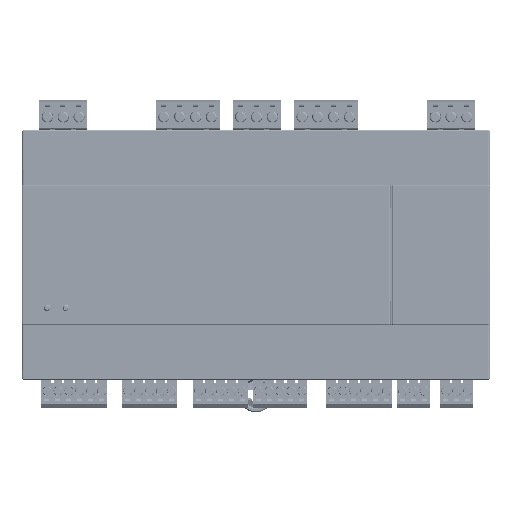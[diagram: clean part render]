
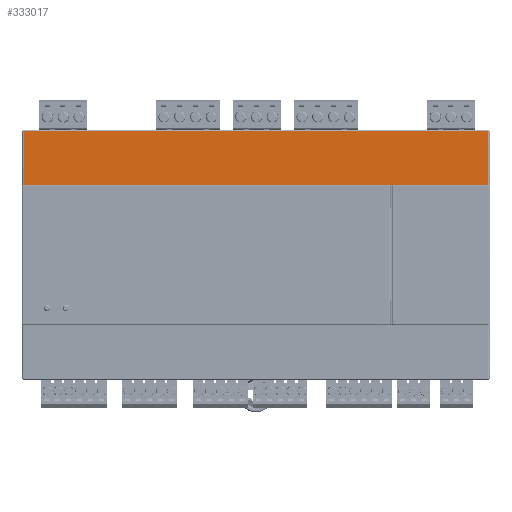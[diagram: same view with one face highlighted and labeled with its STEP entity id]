
A CAD part, top view. The second image highlights one B-rep face of the part: STEP entity #333017.
In plain terms, the highlighted planar face has unit normal (0, 0, 1).
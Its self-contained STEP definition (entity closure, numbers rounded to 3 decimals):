
#190 = EDGE_CURVE ( 'NONE', #42191, #364886, #113688, .T. ) ;
#516 = CARTESIAN_POINT ( 'NONE',  ( -2349.74, -145.792, 47.44 ) ) ;
#711 = CARTESIAN_POINT ( 'NONE',  ( -2249.964, -162.992, 47.44 ) ) ;
#1934 = CARTESIAN_POINT ( 'NONE',  ( -2323.764, -162.992, 47.44 ) ) ;
#2162 = DIRECTION ( 'NONE',  ( 1., 0., 0. ) ) ;
#6355 = VERTEX_POINT ( 'NONE', #301102 ) ;
#8098 = CARTESIAN_POINT ( 'NONE',  ( -2367.933, -162.992, 47.44 ) ) ;
#13024 = EDGE_CURVE ( 'NONE', #285383, #296775, #206354, .T. ) ;
#18241 = B_SPLINE_CURVE_WITH_KNOTS ( 'NONE', 1,
 ( #253226, #348977, #25751 ),
 .UNSPECIFIED., .F., .F.,
 ( 2, 1, 2 ),
 ( 9.713, 17.342, 45.723 ),
 .UNSPECIFIED. ) ;
#25751 = CARTESIAN_POINT ( 'NONE',  ( -2249.964, -145.792, 47.44 ) ) ;
#33147 = CARTESIAN_POINT ( 'NONE',  ( -2249.964, -145.792, 47.44 ) ) ;
#39297 = EDGE_CURVE ( 'NONE', #42191, #296775, #365682, .T. ) ;
#42191 = VERTEX_POINT ( 'NONE', #78172 ) ;
#49495 = ORIENTED_EDGE ( 'NONE', *, *, #210940, .F. ) ;
#55570 = CARTESIAN_POINT ( 'NONE',  ( -2398.764, -156.992, 47.44 ) ) ;
#60448 = AXIS2_PLACEMENT_3D ( 'NONE', #337178, #145912, #2162 ) ;
#68612 = EDGE_CURVE ( 'NONE', #285383, #6355, #210462, .T. ) ;
#72286 = ORIENTED_EDGE ( 'NONE', *, *, #68612, .F. ) ;
#76101 = CARTESIAN_POINT ( 'NONE',  ( -2284.335, -162.992, 47.44 ) ) ;
#78172 = CARTESIAN_POINT ( 'NONE',  ( -2274.335, -162.992, 47.44 ) ) ;
#78354 = VERTEX_POINT ( 'NONE', #140653 ) ;
#81784 = B_SPLINE_CURVE_WITH_KNOTS ( 'NONE', 1,
 ( #319404, #139826 ),
 .UNSPECIFIED., .F., .F.,
 ( 2, 2 ),
 ( -18.64, 0. ),
 .UNSPECIFIED. ) ;
#81959 = EDGE_CURVE ( 'NONE', #99010, #78354, #81784, .T. ) ;
#84359 = CARTESIAN_POINT ( 'NONE',  ( -2341.536, -145.792, 47.44 ) ) ;
#86408 = ORIENTED_EDGE ( 'NONE', *, *, #190, .T. ) ;
#98750 = CARTESIAN_POINT ( 'NONE',  ( -2398.764, -162.992, 47.44 ) ) ;
#99010 = VERTEX_POINT ( 'NONE', #313116 ) ;
#100360 = ORIENTED_EDGE ( 'NONE', *, *, #81959, .T. ) ;
#100373 = ORIENTED_EDGE ( 'NONE', *, *, #39297, .F. ) ;
#103946 = CARTESIAN_POINT ( 'NONE',  ( -2392.254, -162.992, 47.44 ) ) ;
#113688 = B_SPLINE_CURVE_WITH_KNOTS ( 'NONE', 1,
 ( #231052, #332591 ),
 .UNSPECIFIED., .F., .F.,
 ( 2, 2 ),
 ( 11.638, 36.01 ),
 .UNSPECIFIED. ) ;
#114379 = CARTESIAN_POINT ( 'NONE',  ( -2330.37, -145.792, 47.44 ) ) ;
#115262 = CARTESIAN_POINT ( 'NONE',  ( -2249.964, -162.992, 47.44 ) ) ;
#115775 = FACE_OUTER_BOUND ( 'NONE', #299455, .T. ) ;
#115807 = CARTESIAN_POINT ( 'NONE',  ( -2284.335, -162.992, 47.44 ) ) ;
#133641 = CARTESIAN_POINT ( 'NONE',  ( -2334.834, -162.992, 47.44 ) ) ;
#139826 = CARTESIAN_POINT ( 'NONE',  ( -2304.614, -145.792, 47.44 ) ) ;
#140653 = CARTESIAN_POINT ( 'NONE',  ( -2304.614, -145.792, 47.44 ) ) ;
#143521 = ORIENTED_EDGE ( 'NONE', *, *, #164376, .F. ) ;
#144270 = CARTESIAN_POINT ( 'NONE',  ( -2323.764, -145.792, 47.44 ) ) ;
#145912 = DIRECTION ( 'NONE',  ( 0., 0., 1. ) ) ;
#150621 = CARTESIAN_POINT ( 'NONE',  ( -2249.964, -145.792, 47.44 ) ) ;
#157583 = CARTESIAN_POINT ( 'NONE',  ( -2398.764, -157.392, 47.44 ) ) ;
#162018 = CARTESIAN_POINT ( 'NONE',  ( -2360.405, -145.792, 47.44 ) ) ;
#164376 = EDGE_CURVE ( 'NONE', #362481, #364886, #207090, .T. ) ;
#174065 = DIRECTION ( 'NONE',  ( -1., 0., 0. ) ) ;
#174293 = CARTESIAN_POINT ( 'NONE',  ( -2304.614, -145.792, 47.44 ) ) ;
#182866 = EDGE_CURVE ( 'NONE', #6355, #78354, #225387, .T. ) ;
#186043 = CARTESIAN_POINT ( 'NONE',  ( -2326.636, -145.792, 47.44 ) ) ;
#205659 = PLANE ( 'NONE',  #60448 ) ;
#206354 = B_SPLINE_CURVE_WITH_KNOTS ( 'NONE', 1,
 ( #247110, #103946, #8098, #241525, #133641, #1934, #337214, #115807 ),
 .UNSPECIFIED., .F., .F.,
 ( 2, 1, 1, 1, 1, 1, 1, 2 ),
 ( -112.79, -106.28, -81.959, -63.251, -48.86, -37.79, 0., 1.638 ),
 .UNSPECIFIED. ) ;
#207090 = B_SPLINE_CURVE_WITH_KNOTS ( 'NONE', 1,
 ( #150621, #711 ),
 .UNSPECIFIED., .F., .F.,
 ( 2, 2 ),
 ( 0., 17.2 ),
 .UNSPECIFIED. ) ;
#210462 = B_SPLINE_CURVE_WITH_KNOTS ( 'NONE', 1,
 ( #265397, #157583, #55570, #367145 ),
 .UNSPECIFIED., .F., .F.,
 ( 2, 1, 1, 2 ),
 ( 0., 5.6, 6., 17.2 ),
 .UNSPECIFIED. ) ;
#210940 = EDGE_CURVE ( 'NONE', #99010, #362481, #18241, .T. ) ;
#225387 = B_SPLINE_CURVE_WITH_KNOTS ( 'NONE', 1,
 ( #251612, #227894, #323587, #162018, #516, #84359, #281845, #114379, #186043, #144270, #174293 ),
 .UNSPECIFIED., .F., .F.,
 ( 2, 1, 1, 1, 1, 1, 1, 1, 1, 1, 2 ),
 ( -75., -68.531, -50.507, -36.642, -25.976, -17.772, -11.461, -6.607, -2.873, 0., 19.15 ),
 .UNSPECIFIED. ) ;
#227894 = CARTESIAN_POINT ( 'NONE',  ( -2392.295, -145.792, 47.44 ) ) ;
#231052 = CARTESIAN_POINT ( 'NONE',  ( -2274.335, -162.992, 47.44 ) ) ;
#239926 = CARTESIAN_POINT ( 'NONE',  ( -2403.618, -162.992, 47.44 ) ) ;
#241525 = CARTESIAN_POINT ( 'NONE',  ( -2349.225, -162.992, 47.44 ) ) ;
#247110 = CARTESIAN_POINT ( 'NONE',  ( -2398.764, -162.992, 47.44 ) ) ;
#251612 = CARTESIAN_POINT ( 'NONE',  ( -2398.764, -145.792, 47.44 ) ) ;
#253226 = CARTESIAN_POINT ( 'NONE',  ( -2285.974, -145.792, 47.44 ) ) ;
#265397 = CARTESIAN_POINT ( 'NONE',  ( -2398.764, -162.992, 47.44 ) ) ;
#273277 = VECTOR ( 'NONE', #174065, 1000. ) ;
#281845 = CARTESIAN_POINT ( 'NONE',  ( -2335.225, -145.792, 47.44 ) ) ;
#285180 = ORIENTED_EDGE ( 'NONE', *, *, #13024, .T. ) ;
#285383 = VERTEX_POINT ( 'NONE', #98750 ) ;
#296775 = VERTEX_POINT ( 'NONE', #76101 ) ;
#299455 = EDGE_LOOP ( 'NONE', ( #100373, #86408, #143521, #49495, #100360, #343553, #72286, #285180 ) ) ;
#301102 = CARTESIAN_POINT ( 'NONE',  ( -2398.764, -145.792, 47.44 ) ) ;
#313116 = CARTESIAN_POINT ( 'NONE',  ( -2285.974, -145.792, 47.44 ) ) ;
#319404 = CARTESIAN_POINT ( 'NONE',  ( -2285.974, -145.792, 47.44 ) ) ;
#323587 = CARTESIAN_POINT ( 'NONE',  ( -2374.27, -145.792, 47.44 ) ) ;
#332591 = CARTESIAN_POINT ( 'NONE',  ( -2249.964, -162.992, 47.44 ) ) ;
#333017 = ADVANCED_FACE ( 'NONE', ( #115775 ), #205659, .T. ) ;
#337178 = CARTESIAN_POINT ( 'NONE',  ( -2325.679, -164.712, 47.44 ) ) ;
#337214 = CARTESIAN_POINT ( 'NONE',  ( -2285.974, -162.992, 47.44 ) ) ;
#343553 = ORIENTED_EDGE ( 'NONE', *, *, #182866, .F. ) ;
#348977 = CARTESIAN_POINT ( 'NONE',  ( -2278.345, -145.792, 47.44 ) ) ;
#362481 = VERTEX_POINT ( 'NONE', #33147 ) ;
#364886 = VERTEX_POINT ( 'NONE', #115262 ) ;
#365682 = LINE ( 'NONE', #239926, #273277 ) ;
#367145 = CARTESIAN_POINT ( 'NONE',  ( -2398.764, -145.792, 47.44 ) ) ;
